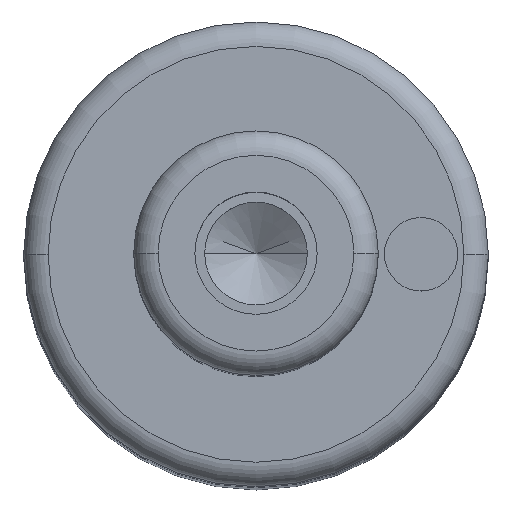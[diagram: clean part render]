
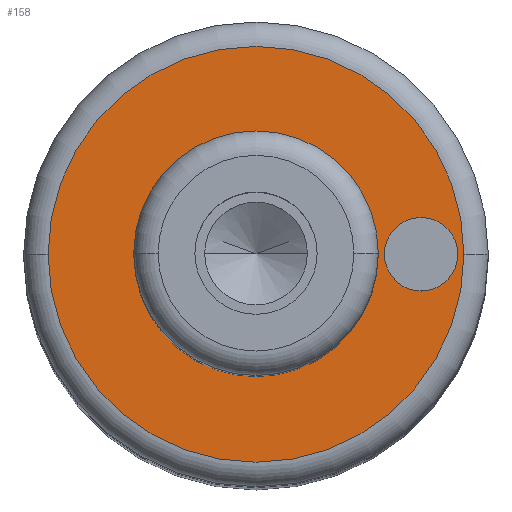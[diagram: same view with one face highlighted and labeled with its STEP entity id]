
A CAD part, top view. The second image highlights one B-rep face of the part: STEP entity #158.
In plain terms, the highlighted planar face has unit normal (0, 0, 1).
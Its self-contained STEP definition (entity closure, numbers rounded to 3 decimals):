
#105=PLANE('',#628);
#113=FACE_BOUND('',#229,.T.);
#114=FACE_BOUND('',#230,.T.);
#115=FACE_BOUND('',#231,.T.);
#158=ADVANCED_FACE('',(#113,#114,#115),#105,.T.);
#229=EDGE_LOOP('',(#375,#376));
#230=EDGE_LOOP('',(#377,#378));
#231=EDGE_LOOP('',(#379,#380));
#259=CIRCLE('',#596,5.);
#260=CIRCLE('',#598,5.);
#264=CIRCLE('',#603,8.5);
#265=CIRCLE('',#605,8.5);
#277=CIRCLE('',#626,1.5);
#278=CIRCLE('',#627,1.5);
#375=ORIENTED_EDGE('',*,*,#488,.F.);
#376=ORIENTED_EDGE('',*,*,#489,.F.);
#377=ORIENTED_EDGE('',*,*,#507,.F.);
#378=ORIENTED_EDGE('',*,*,#508,.F.);
#379=ORIENTED_EDGE('',*,*,#484,.T.);
#380=ORIENTED_EDGE('',*,*,#482,.T.);
#434=VERTEX_POINT('',#875);
#435=VERTEX_POINT('',#877);
#436=VERTEX_POINT('',#883);
#439=VERTEX_POINT('',#888);
#448=VERTEX_POINT('',#927);
#449=VERTEX_POINT('',#928);
#482=EDGE_CURVE('',#435,#434,#259,.T.);
#484=EDGE_CURVE('',#434,#435,#260,.T.);
#488=EDGE_CURVE('',#439,#436,#264,.T.);
#489=EDGE_CURVE('',#436,#439,#265,.T.);
#507=EDGE_CURVE('',#448,#449,#277,.T.);
#508=EDGE_CURVE('',#449,#448,#278,.T.);
#596=AXIS2_PLACEMENT_3D('',#876,#707,#708);
#598=AXIS2_PLACEMENT_3D('',#880,#712,#713);
#603=AXIS2_PLACEMENT_3D('',#889,#722,#723);
#605=AXIS2_PLACEMENT_3D('',#891,#726,#727);
#626=AXIS2_PLACEMENT_3D('',#926,#774,#775);
#627=AXIS2_PLACEMENT_3D('',#929,#776,#777);
#628=AXIS2_PLACEMENT_3D('',#930,#778,#779);
#707=DIRECTION('',(0.,0.,-1.));
#708=DIRECTION('',(0.,1.,0.));
#712=DIRECTION('',(0.,0.,-1.));
#713=DIRECTION('',(0.,-1.,0.));
#722=DIRECTION('',(0.,0.,-1.));
#723=DIRECTION('',(0.,1.,0.));
#726=DIRECTION('',(0.,0.,-1.));
#727=DIRECTION('',(0.,-1.,0.));
#774=DIRECTION('',(0.,0.,1.));
#775=DIRECTION('',(0.,1.,0.));
#776=DIRECTION('',(0.,0.,1.));
#777=DIRECTION('',(0.,-1.,0.));
#778=DIRECTION('',(0.,0.,1.));
#779=DIRECTION('',(0.,-1.,0.));
#875=CARTESIAN_POINT('',(-5.,0.,78.));
#876=CARTESIAN_POINT('',(0.,0.,78.));
#877=CARTESIAN_POINT('',(5.,0.,78.));
#880=CARTESIAN_POINT('',(0.,0.,78.));
#883=CARTESIAN_POINT('',(-8.5,0.,78.));
#888=CARTESIAN_POINT('',(8.5,0.,78.));
#889=CARTESIAN_POINT('',(0.,0.,78.));
#891=CARTESIAN_POINT('',(0.,0.,78.));
#926=CARTESIAN_POINT('',(6.75,0.,78.));
#927=CARTESIAN_POINT('',(5.25,0.,78.));
#928=CARTESIAN_POINT('',(8.25,0.,78.));
#929=CARTESIAN_POINT('',(6.75,0.,78.));
#930=CARTESIAN_POINT('',(0.,0.,78.));
